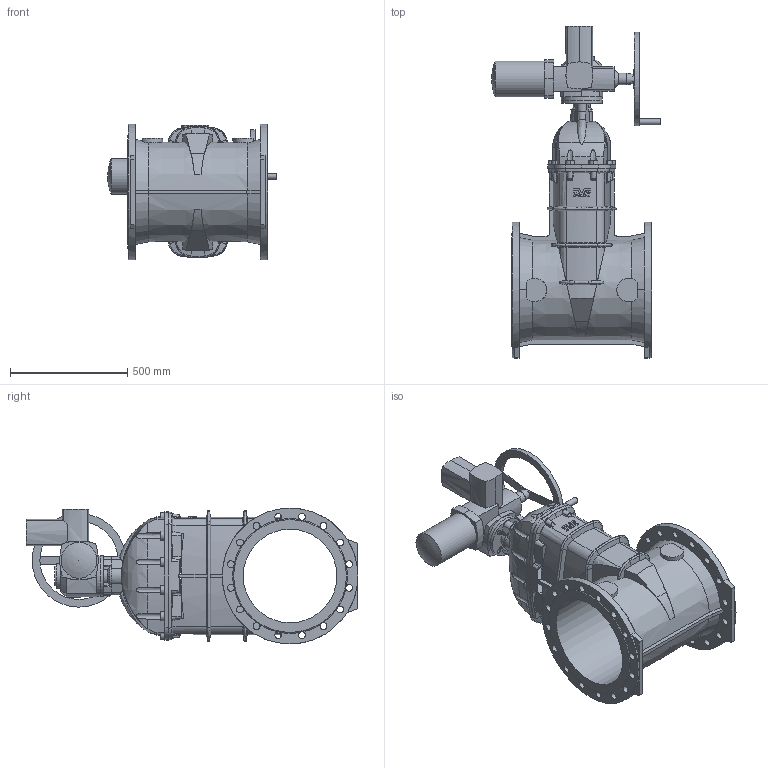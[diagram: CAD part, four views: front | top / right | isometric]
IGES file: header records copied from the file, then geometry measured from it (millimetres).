
Start section: SolidWorks IGES file using analytic representation for surfaces
Global section: file name: D:\Arthur\For Will\Finished\O_15_72_DN400 with AUMA\O_15_72_DN400_00_iges with AUMA.IGS; native system: SolidWorks 2012; preprocessor: SolidWorks 2012; author: aran; date: 150611.154623; units: millimetre
Bounding box: 721 x 1418 x 580 mm (x, y, z)
Surface area: 3812669.5 mm2 (no closed solid volume)
Topology: 0 solids, 0 shells, 581 faces, 3377 edges, 3312 vertices
Faces by surface type: revolution 366, bspline 215
